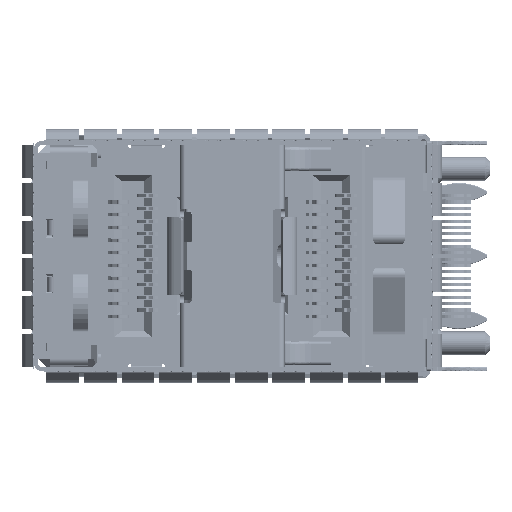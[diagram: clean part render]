
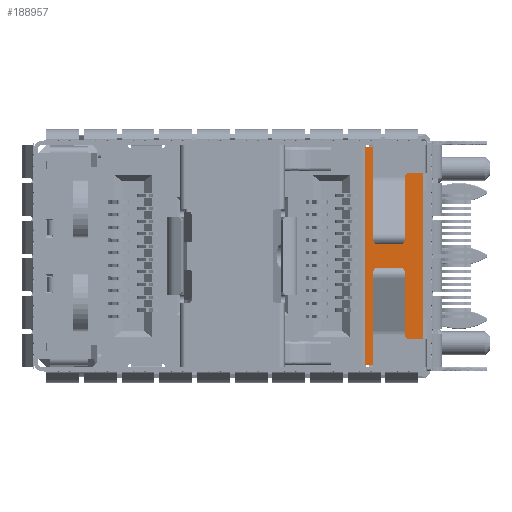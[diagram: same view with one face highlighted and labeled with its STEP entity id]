
A CAD part, left-side view. The second image highlights one B-rep face of the part: STEP entity #188957.
In plain terms, the highlighted planar face has unit normal (-1, 0, 0).
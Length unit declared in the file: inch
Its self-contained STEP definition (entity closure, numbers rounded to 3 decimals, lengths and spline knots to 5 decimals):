
#10421 = FACE_OUTER_BOUND ( 'NONE', #74656, .T. ) ;
#74656 = EDGE_LOOP ( 'NONE', ( #99181, #99233, #98977, #98693, #99340, #98982, #99117, #98974 ) ) ;
#98693 = ORIENTED_EDGE ( 'NONE', *, *, #229056, .T. ) ;
#98974 = ORIENTED_EDGE ( 'NONE', *, *, #227104, .T. ) ;
#98977 = ORIENTED_EDGE ( 'NONE', *, *, #228929, .F. ) ;
#98982 = ORIENTED_EDGE ( 'NONE', *, *, #227765, .T. ) ;
#99117 = ORIENTED_EDGE ( 'NONE', *, *, #227122, .T. ) ;
#99181 = ORIENTED_EDGE ( 'NONE', *, *, #227083, .T. ) ;
#99233 = ORIENTED_EDGE ( 'NONE', *, *, #227130, .T. ) ;
#99340 = ORIENTED_EDGE ( 'NONE', *, *, #228937, .F. ) ;
#111893 = AXIS2_PLACEMENT_3D ( 'NONE', #181996, #182032, #182019 ) ;
#124918 = LINE ( 'NONE', #127631, #125040 ) ;
#125040 = VECTOR ( 'NONE', #127539, 39.37008 ) ;
#125072 = VECTOR ( 'NONE', #127615, 39.37008 ) ;
#125175 = LINE ( 'NONE', #127540, #125072 ) ;
#125318 = LINE ( 'NONE', #127834, #125433 ) ;
#125433 = VECTOR ( 'NONE', #127783, 39.37008 ) ;
#127539 = DIRECTION ( 'NONE',  ( 0., -1., 0. ) ) ;
#127540 = CARTESIAN_POINT ( 'NONE',  ( -0.11779, -0.6374, -0.21142 ) ) ;
#127615 = DIRECTION ( 'NONE',  ( 0., 1., 0. ) ) ;
#127631 = CARTESIAN_POINT ( 'NONE',  ( -0.11779, -0.6374, 0.21142 ) ) ;
#127783 = DIRECTION ( 'NONE',  ( 0., 0., 1. ) ) ;
#127834 = CARTESIAN_POINT ( 'NONE',  ( -0.11779, -0.59803, -0.2748 ) ) ;
#128279 = LINE ( 'NONE', #131157, #128369 ) ;
#128300 = VECTOR ( 'NONE', #131185, 39.37008 ) ;
#128304 = LINE ( 'NONE', #131147, #128300 ) ;
#128369 = VECTOR ( 'NONE', #131196, 39.37008 ) ;
#128423 = VECTOR ( 'NONE', #131178, 39.37008 ) ;
#128429 = VECTOR ( 'NONE', #131183, 39.37008 ) ;
#128440 = LINE ( 'NONE', #131152, #128423 ) ;
#128447 = LINE ( 'NONE', #131161, #128429 ) ;
#129127 = LINE ( 'NONE', #131455, #129178 ) ;
#129178 = VECTOR ( 'NONE', #131510, 39.37008 ) ;
#131147 = CARTESIAN_POINT ( 'NONE',  ( -0.11779, -0.6374, 0.27047 ) ) ;
#131152 = CARTESIAN_POINT ( 'NONE',  ( -0.11779, -0.6374, -0.27047 ) ) ;
#131157 = CARTESIAN_POINT ( 'NONE',  ( -0.11779, -0.45531, 0. ) ) ;
#131161 = CARTESIAN_POINT ( 'NONE',  ( -0.11779, -0.53897, 0. ) ) ;
#131178 = DIRECTION ( 'NONE',  ( 0., -1., 0. ) ) ;
#131183 = DIRECTION ( 'NONE',  ( 0., 0., 1. ) ) ;
#131185 = DIRECTION ( 'NONE',  ( 0., 1., 0. ) ) ;
#131196 = DIRECTION ( 'NONE',  ( 0., 0., -1. ) ) ;
#131455 = CARTESIAN_POINT ( 'NONE',  ( -0.11779, -0.53897, 0. ) ) ;
#131510 = DIRECTION ( 'NONE',  ( 0., 0., 1. ) ) ;
#148676 = VERTEX_POINT ( 'NONE', #237397 ) ;
#149542 = VERTEX_POINT ( 'NONE', #239186 ) ;
#149696 = VERTEX_POINT ( 'NONE', #239444 ) ;
#153427 = VERTEX_POINT ( 'NONE', #227010 ) ;
#153429 = VERTEX_POINT ( 'NONE', #226833 ) ;
#153433 = VERTEX_POINT ( 'NONE', #227102 ) ;
#153457 = VERTEX_POINT ( 'NONE', #227297 ) ;
#153468 = VERTEX_POINT ( 'NONE', #227202 ) ;
#181996 = CARTESIAN_POINT ( 'NONE',  ( -0.11779, -0.6374, 0. ) ) ;
#182019 = DIRECTION ( 'NONE',  ( 0., 0., 1. ) ) ;
#182032 = DIRECTION ( 'NONE',  ( -1., 0., 0. ) ) ;
#182034 = PLANE ( 'NONE',  #111893 ) ;
#188957 = ADVANCED_FACE ( 'NONE', ( #10421 ), #182034, .T. ) ;
#226833 = CARTESIAN_POINT ( 'NONE',  ( -0.11779, -0.53897, 0.27047 ) ) ;
#227010 = CARTESIAN_POINT ( 'NONE',  ( -0.11779, -0.53897, -0.27047 ) ) ;
#227083 = EDGE_CURVE ( 'NONE', #153457, #153427, #128440, .T. ) ;
#227102 = CARTESIAN_POINT ( 'NONE',  ( -0.11779, -0.45531, 0.27047 ) ) ;
#227104 = EDGE_CURVE ( 'NONE', #153433, #153457, #128279, .T. ) ;
#227122 = EDGE_CURVE ( 'NONE', #153429, #153433, #128304, .T. ) ;
#227130 = EDGE_CURVE ( 'NONE', #153427, #148676, #128447, .T. ) ;
#227202 = CARTESIAN_POINT ( 'NONE',  ( -0.11779, -0.53897, 0.21142 ) ) ;
#227297 = CARTESIAN_POINT ( 'NONE',  ( -0.11779, -0.45531, -0.27047 ) ) ;
#227765 = EDGE_CURVE ( 'NONE', #153468, #153429, #129127, .T. ) ;
#228929 = EDGE_CURVE ( 'NONE', #149696, #148676, #125175, .T. ) ;
#228937 = EDGE_CURVE ( 'NONE', #153468, #149542, #124918, .T. ) ;
#229056 = EDGE_CURVE ( 'NONE', #149696, #149542, #125318, .T. ) ;
#237397 = CARTESIAN_POINT ( 'NONE',  ( -0.11779, -0.53897, -0.21142 ) ) ;
#239186 = CARTESIAN_POINT ( 'NONE',  ( -0.11779, -0.59803, 0.21142 ) ) ;
#239444 = CARTESIAN_POINT ( 'NONE',  ( -0.11779, -0.59803, -0.21142 ) ) ;
